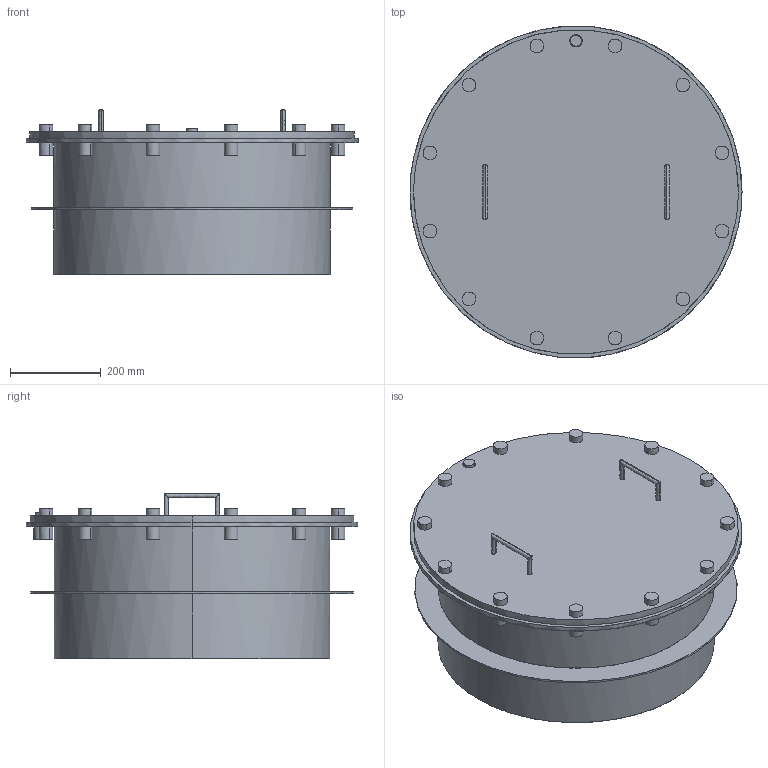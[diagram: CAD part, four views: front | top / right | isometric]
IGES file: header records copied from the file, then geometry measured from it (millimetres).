
Start section:  PTC IGES file: 51814078.igs
Global section: file name: 51814078.igs; native system: Creo Parametric by PTC Inc.; preprocessor: 2021304; author: ka; organization: Unknown; date: 20220523.111053; units: millimetre
Bounding box: 731 x 729.95 x 364 mm (x, y, z)
Surface area: 2294275.2 mm2 (no closed solid volume)
Topology: 0 solids, 0 shells, 112 faces, 468 edges, 468 vertices
Faces by surface type: revolution 78, bspline 34
